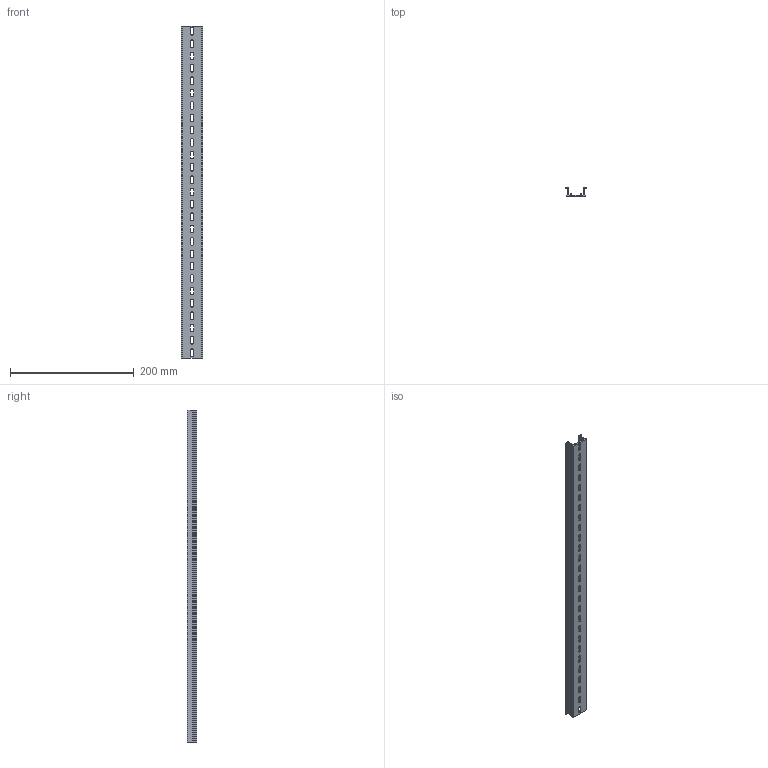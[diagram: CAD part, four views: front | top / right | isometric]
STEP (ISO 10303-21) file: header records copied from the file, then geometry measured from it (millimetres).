
FILE_DESCRIPTION(/* description */ (''),/* implementation_level */ '2;1');
FILE_NAME(/* name */ '22648-(TKB KD-27)HP 3D.stp',/* time_stamp */ '2024-12-05T14:08:08+09:00',/* author */ ('usercadg104'),/* organization */ (''),/* preprocessor_version */ 'ST-DEVELOPER v19.2',/* originating_system */ 'Autodesk Inventor 2023',/* authorisation */ '');
FILE_SCHEMA (('CONFIG_CONTROL_DESIGN'));
Length unit declared in the file: millimetre
Products named in the file (1): TKB KD-3(林)
Bounding box: 35 x 15 x 537 mm (x, y, z)
Volume: 62822.8 mm3; surface area: 72625.3 mm2
Topology: 1 solids, 1 shells, 148 faces, 438 edges, 292 vertices
Faces by surface type: plane 90, cylinder 58
Entity records: 5109 total; most frequent: CARTESIAN_POINT 879, ORIENTED_EDGE 876, DIRECTION 852, EDGE_CURVE 438, LINE 322, VECTOR 322, VERTEX_POINT 292, AXIS2_PLACEMENT_3D 265
